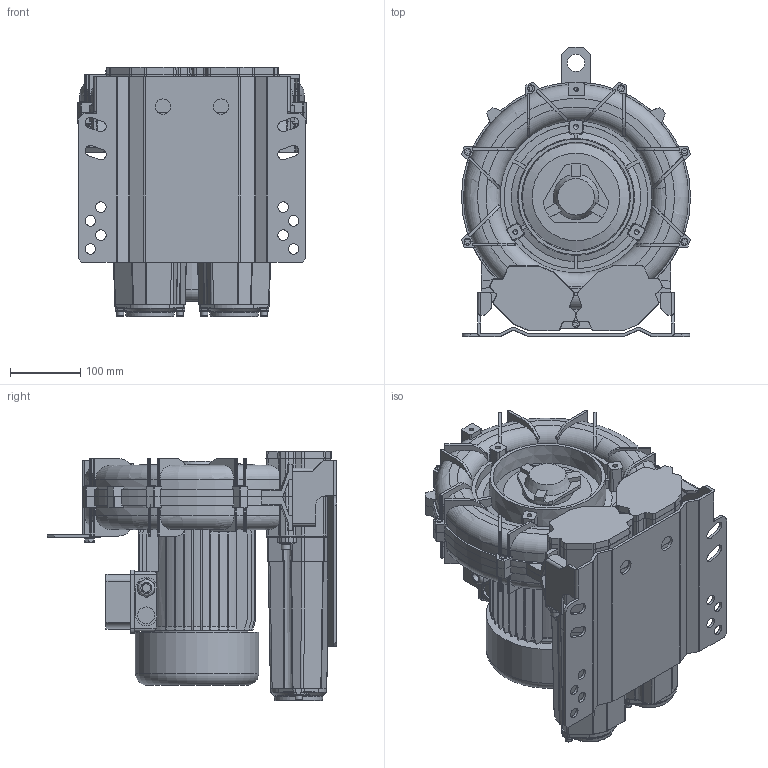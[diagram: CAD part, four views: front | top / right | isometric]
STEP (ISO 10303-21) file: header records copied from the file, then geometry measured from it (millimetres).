
FILE_DESCRIPTION (( 'STEP AP203' ), '1' );
FILE_NAME ('STP-L_e_05_MS_MOR_IE3WR_90_2.2kW-3_25-00.step', '2025-04-30T09:49:36', ( '' ), ( '' ), 'SwSTEP 2.0', 'SolidWorks 2024', '' );
FILE_SCHEMA (( 'CONFIG_CONTROL_DESIGN' ));
Products named in the file (1): STP-L_e_05_MS_MOR_IE3WR_90_2.2kW-3_25-00
Bounding box: 327 x 412.5 x 355.9 mm (x, y, z)
Volume: 15263490.5 mm3; surface area: 1476554.9 mm2
Topology: 67 solids, 67 shells, 3053 faces, 8113 edges, 5191 vertices
Faces by surface type: plane 1504, cylinder 796, cone 329, bspline 222, torus 202
Full cylindrical faces by diameter (mm): 4 x8, 4.917 x7, 5 x10, 5.5 x4, 6 x15, 6.4 x15, 6.8 x3, 8 x5, 8.4 x5, 8.5 x5, 10 x30, 12 x1, 13 x10, 14 x1, 15 x8, 18 x2, 20 x2, 22 x2, 24 x2, 25 x1, 57 x2, 73 x2, 140 x1, 146 x1, 176 x1
Entity records: 99737 total; most frequent: CARTESIAN_POINT 27581, ORIENTED_EDGE 15246, DIRECTION 14384, EDGE_CURVE 7623, AXIS2_PLACEMENT_3D 5178, VERTEX_POINT 5069, VECTOR 4028, LINE 4028
